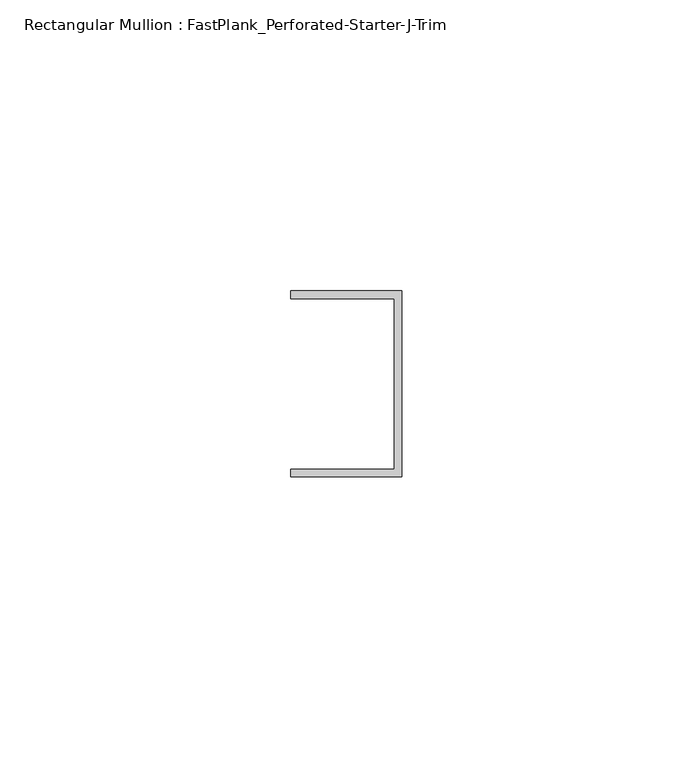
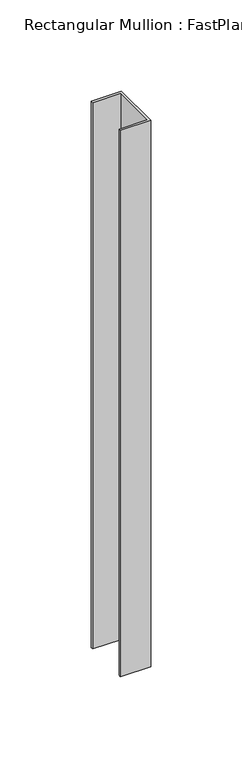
"""IFC4 building model written with IfcOpenShell, lengths in millimetres: member geometry, Rectangular Mullion : FastPlank_Perforated-Starter-J-Trim."""

from ifc_helpers import new_model, si_unit, frame, origin, place, context, project, spatial, polyline, outline, extrude, source, transform, mapped, element, save


def rectangular_mullion_fastplank_perforated_starter_j_trim_9e9efb74(model_context):
    return source(origin(), model_context, "Body", "SweptSolid", [
        extrude(outline(polyline([(0.0, 10.2620691), (0.0, -21.6412691), (-19.05, -21.6412691), (-19.05, -20.3412717), (-1.3000189, -20.3412717), (-1.3000189, 8.9620717), (-19.05, 8.9620717), (-19.05, 10.2620691), (0.0, 10.2620691)])), frame((0.0, 0.0, -365.1156655), z_axis=(0.0, 0.0, 1.0), x_axis=(1.0, 0.0, 0.0)), (0.0, 0.0, 1.0), 365.1156655),
    ])


if __name__ == "__main__":
    model = new_model("IFC4")
    model_context = context("Model", 3, world=origin())
    ifc_project = project(units=[si_unit("LENGTHUNIT", "METRE", prefix="MILLI")], contexts=[model_context])
    site = spatial("IfcSite", under=ifc_project)
    building = spatial("IfcBuilding", under=site)
    placement = place(None, origin())
    rectangular_mullion_fastplank_perforated_starter_j_trim_shape = rectangular_mullion_fastplank_perforated_starter_j_trim_9e9efb74(model_context)
    element("IfcMember", 1, ObjectType="Rectangular Mullion : FastPlank_Perforated-Starter-J-Trim", at=placement, inside=building, context=model_context, shape_type="MappedRepresentation", body=[
        mapped(rectangular_mullion_fastplank_perforated_starter_j_trim_shape, transform((0.0, 0.0, 0.0), x_axis=(1.0, 0.0, 0.0), y_axis=(0.0, 1.0, 0.0), z_axis=(0.0, 0.0, 1.0))),
    ])
    save(model, "model.ifc")
